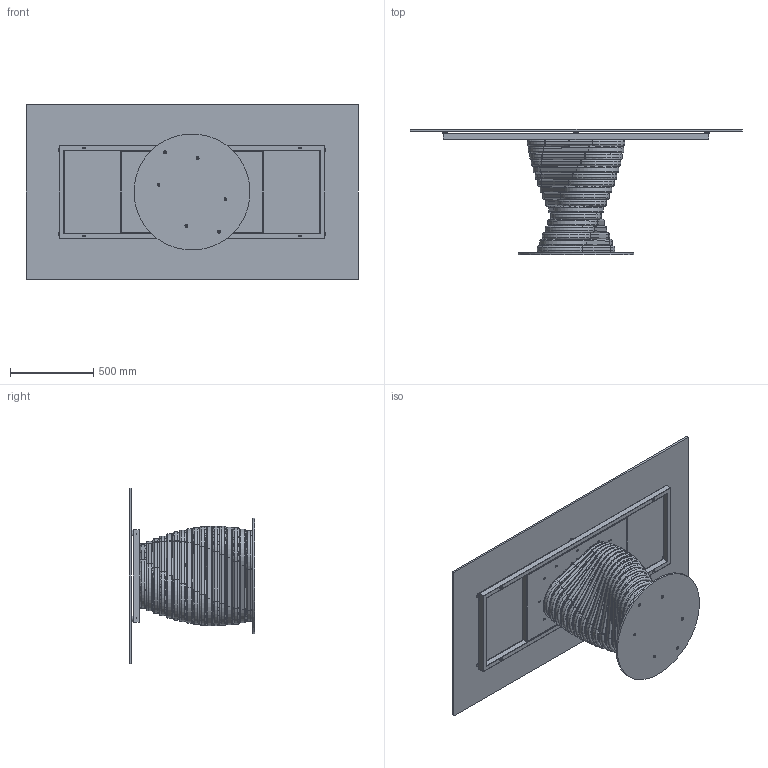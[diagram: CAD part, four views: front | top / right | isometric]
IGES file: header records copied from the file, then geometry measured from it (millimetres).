
Start section: SolidWorks IGES file using analytic representation for surfaces
Global section: file name: Y:\eforma\TECNICO\SOLIDWORKS\E-FORMA\1-TAVOLI\ROTOLO\02 parts\RO21G.IGS; native system: SolidWorks 2022; preprocessor: SolidWorks 2022; author: eforma.tech; date: 240807.154023; units: millimetre
Bounding box: 2000 x 754 x 1060 mm (x, y, z)
Volume: 38637392.5 mm3; surface area: 12167045.8 mm2
Topology: 98 solids, 98 shells, 1496 faces, 3548 edges, 2222 vertices
Faces by surface type: revolution 878, plane 618
